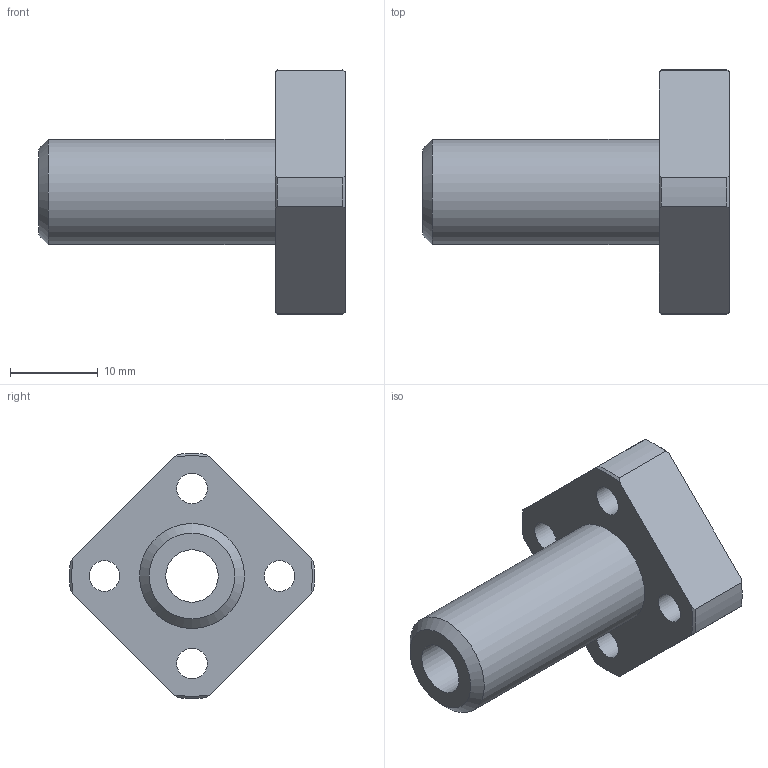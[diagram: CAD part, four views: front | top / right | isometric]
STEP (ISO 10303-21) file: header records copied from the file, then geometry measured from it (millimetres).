
FILE_DESCRIPTION(('STEP AP203'),'1');
FILE_NAME('//192.168.1.1/share/s-4 技術開発/s-4-4_CAD/s-4-4-3_見直し済み/PBC LINEAR修正済み/DFPJ/DFPJ_TOP/DFPJ/DFPJ06.step','2022-03-24T05:06:45',(' '),(' '),'Spatial InterOp 3D',' ',' ');
FILE_SCHEMA(('CONFIG_CONTROL_DESIGN'));
Length unit declared in the file: millimetre
Products named in the file (1): 1
Bounding box: 35 x 27.98 x 27.98 mm (x, y, z)
Volume: 5293.9 mm3; surface area: 3571.2 mm2
Topology: 1 solids, 1 shells, 34 faces, 84 edges, 57 vertices
Faces by surface type: cylinder 14, plane 11, cone 9
Full cylindrical faces by diameter (mm): 3.5 x4, 6 x5, 12 x1
Entity records: 1018 total; most frequent: CARTESIAN_POINT 205, DIRECTION 160, ORIENTED_EDGE 138, AXIS2_PLACEMENT_3D 72, EDGE_CURVE 69, EDGE_LOOP 60, VERTEX_POINT 53, FACE_OUTER_BOUND 44
